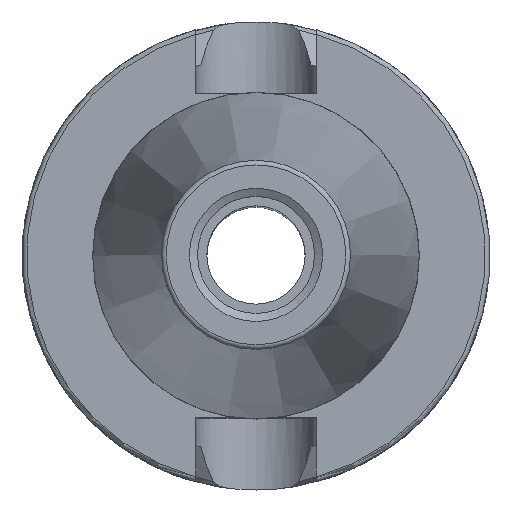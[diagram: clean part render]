
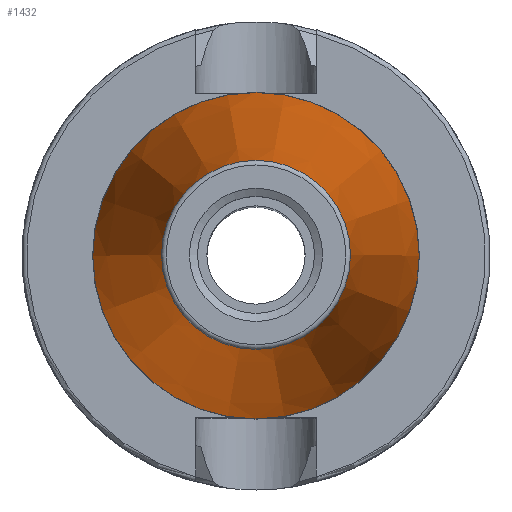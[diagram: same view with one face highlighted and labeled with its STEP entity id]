
A CAD part, top view. The second image highlights one B-rep face of the part: STEP entity #1432.
In plain terms, the highlighted conical face has half-angle 8.3 degrees and reference radius 27.5 mm.
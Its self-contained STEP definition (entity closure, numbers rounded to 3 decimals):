
#184=FACE_OUTER_BOUND('',#270,.T.);
#270=EDGE_LOOP('',(#1042,#1043,#1044,#1045,#1046));
#369=LINE('',#2381,#448);
#448=VECTOR('',#1837,27.499);
#529=CIRCLE('',#1602,20.199);
#530=CIRCLE('',#1603,20.199);
#532=CIRCLE('',#1606,34.925);
#639=VERTEX_POINT('',#2373);
#640=VERTEX_POINT('',#2374);
#641=VERTEX_POINT('',#2379);
#797=EDGE_CURVE('',#639,#640,#529,.T.);
#798=EDGE_CURVE('',#640,#639,#530,.T.);
#800=EDGE_CURVE('',#641,#641,#532,.T.);
#801=EDGE_CURVE('',#641,#640,#369,.T.);
#1042=ORIENTED_EDGE('',*,*,#800,.F.);
#1043=ORIENTED_EDGE('',*,*,#801,.T.);
#1044=ORIENTED_EDGE('',*,*,#797,.F.);
#1045=ORIENTED_EDGE('',*,*,#798,.F.);
#1046=ORIENTED_EDGE('',*,*,#801,.F.);
#1409=CONICAL_SURFACE('',#1605,27.499,0.145);
#1432=ADVANCED_FACE('',(#184),#1409,.T.);
#1602=AXIS2_PLACEMENT_3D('',#2375,#1827,#1828);
#1603=AXIS2_PLACEMENT_3D('',#2376,#1829,#1830);
#1605=AXIS2_PLACEMENT_3D('',#2378,#1833,#1834);
#1606=AXIS2_PLACEMENT_3D('',#2380,#1835,#1836);
#1827=DIRECTION('center_axis',(0.,0.,1.));
#1828=DIRECTION('ref_axis',(-1.,0.,0.));
#1829=DIRECTION('center_axis',(0.,0.,1.));
#1830=DIRECTION('ref_axis',(-1.,0.,0.));
#1833=DIRECTION('center_axis',(0.,0.,-1.));
#1834=DIRECTION('ref_axis',(1.,0.,0.));
#1835=DIRECTION('center_axis',(0.,0.,-1.));
#1836=DIRECTION('ref_axis',(1.,0.,0.));
#1837=DIRECTION('',(0.144,0.,0.99));
#2373=CARTESIAN_POINT('',(20.199,0.,149.144));
#2374=CARTESIAN_POINT('',(-20.199,0.,149.144));
#2375=CARTESIAN_POINT('Origin',(0.,0.,
149.144));
#2376=CARTESIAN_POINT('Origin',(0.,0.,
149.144));
#2378=CARTESIAN_POINT('Origin',(0.,0.,99.1));
#2379=CARTESIAN_POINT('',(-34.925,0.,48.2));
#2380=CARTESIAN_POINT('Origin',(0.,0.,48.2));
#2381=CARTESIAN_POINT('',(-27.499,0.,99.1));
